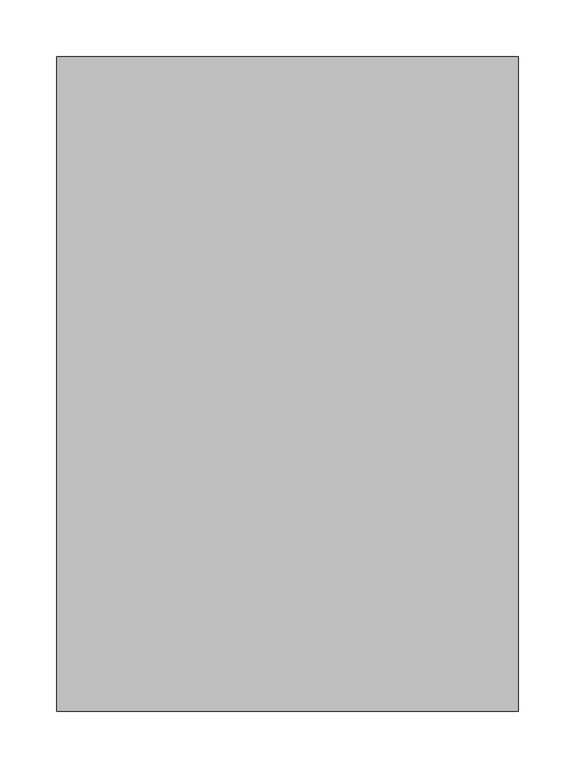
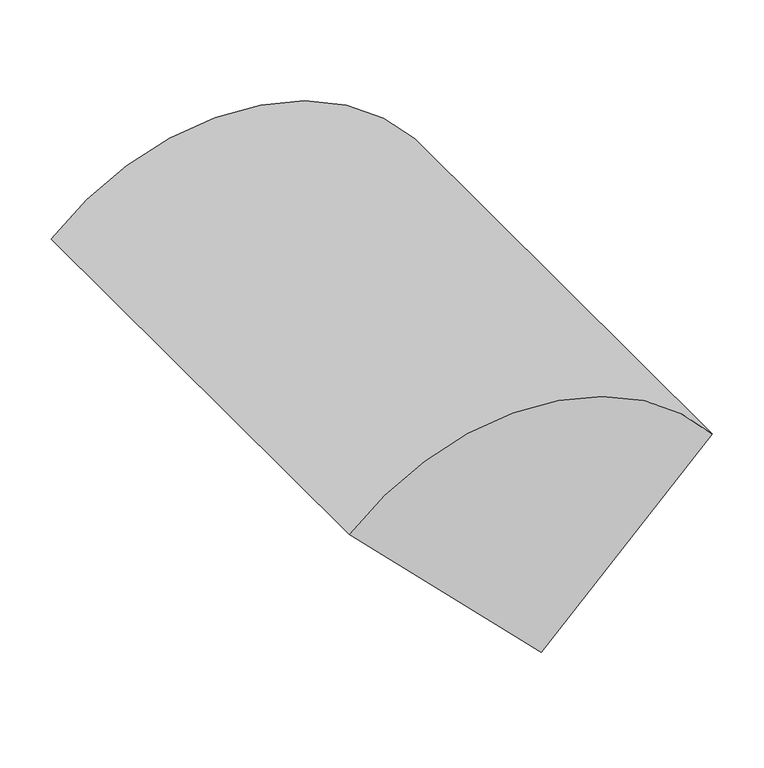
"""IFC4 building model written with IfcOpenShell, lengths in millimetres: proxy geometry, CAMBRIDGE^TABLE 1_60 ROUND-BASE DOOR."""

from ifc_helpers import new_model, si_unit, point, frame, origin, origin_2d, place, context, project, spatial, polyline, circle_curve, trimmed, segment, composite_curve, outline, extrude, source, transform, mapped, element, save


def generic_models_b4677119(model_context):
    return source(origin(), model_context, "Body", "SweptSolid", [
        extrude(outline(composite_curve([segment(polyline([(-22.4506403, 22.4506403), (169.3151544, 214.216435)]), True, "CONTINUOUS"), segment(trimmed(circle_curve(origin_2d(), 273.05), [point((169.3151544, 214.216435))], [point((193.0755066, -193.0755066))], False, "CARTESIAN"), True, "CONTINUOUS"), segment(polyline([(193.0755066, -193.0755066), (-22.4506403, 22.4506403)]), True, "CONTINUOUS")], self_intersect=False)), frame((0.0, -615.95, 0.0), z_axis=(0.0, 1.0, 0.0), x_axis=(0.0, 0.0, 1.0)), (0.0, 0.0, 1.0), 577.85),
    ])


if __name__ == "__main__":
    model = new_model("IFC4")
    model_context = context("Model", 3, world=origin())
    ifc_project = project(units=[si_unit("LENGTHUNIT", "METRE", prefix="MILLI")], contexts=[model_context])
    site = spatial("IfcSite", under=ifc_project)
    building = spatial("IfcBuilding", under=site)
    placement = place(None, origin())
    generic_models_shape = generic_models_b4677119(model_context)
    element("IfcBuildingElementProxy", 1, Name="CAMBRIDGE^TABLE 1_60 ROUND-BASE DOOR", ObjectType="CAMBRIDGE^TABLE 1_60 ROUND-BASE DOOR", at=placement, inside=building, context=model_context, shape_type="MappedRepresentation", body=[
        mapped(generic_models_shape, transform((0.0, 0.0, 0.0), x_axis=(1.0, 0.0, 0.0), y_axis=(0.0, 1.0, 0.0), z_axis=(0.0, 0.0, 1.0))),
    ])
    save(model, "model.ifc")
